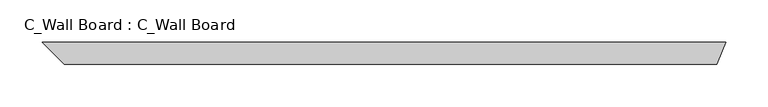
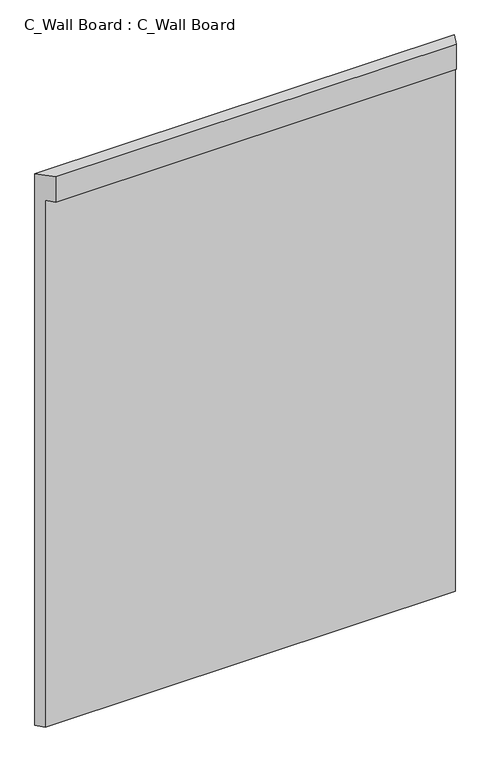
"""IFC4 building model written with IfcOpenShell, lengths in millimetres: proxy geometry, C_Wall Board : C_Wall Board."""

from ifc_helpers import new_model, si_unit, origin, place, context, project, spatial, faceted_brep, source, transform, mapped, element, save


def c_wall_board_c_wall_board_a4613c67(model_context):
    return source(origin(), model_context, "Body", "Brep", [
        faceted_brep([(803.5553898, 0.0, 1117.6), (803.5553898, 0.0, 0.0), (0.0, 0.0, 0.0), (0.0, 0.0, 1117.6), (793.0343653, -25.4, 1117.6), (25.4, -25.4, 1117.6), (793.0343653, -25.4, 1066.8), (798.2948776, -12.7, 1066.8), (798.2948776, -12.7, 0.0), (12.7, -12.7, 0.0), (12.7, -12.7, 1066.8), (25.4, -25.4, 1066.8)], [[[0, 1, 2, 3]], [[4, 0, 3, 5]], [[1, 0, 4, 6, 7, 8]], [[3, 2, 9, 10, 11, 5]], [[8, 7, 10, 9]], [[1, 8, 9, 2]], [[6, 4, 5, 11]], [[7, 6, 11, 10]]]),
    ])


if __name__ == "__main__":
    model = new_model("IFC4")
    model_context = context("Model", 3, world=origin())
    ifc_project = project(units=[si_unit("LENGTHUNIT", "METRE", prefix="MILLI")], contexts=[model_context])
    site = spatial("IfcSite", under=ifc_project)
    building = spatial("IfcBuilding", under=site)
    placement = place(None, origin())
    c_wall_board_c_wall_board_shape = c_wall_board_c_wall_board_a4613c67(model_context)
    element("IfcBuildingElementProxy", 1, Name="C_Wall Board : C_Wall Board", ObjectType="C_Wall Board : C_Wall Board", at=placement, inside=building, context=model_context, shape_type="MappedRepresentation", body=[
        mapped(c_wall_board_c_wall_board_shape, transform((0.0, 0.0, 0.0), x_axis=(1.0, 0.0, 0.0), y_axis=(0.0, 1.0, 0.0), z_axis=(0.0, 0.0, 1.0))),
    ])
    save(model, "model.ifc")
